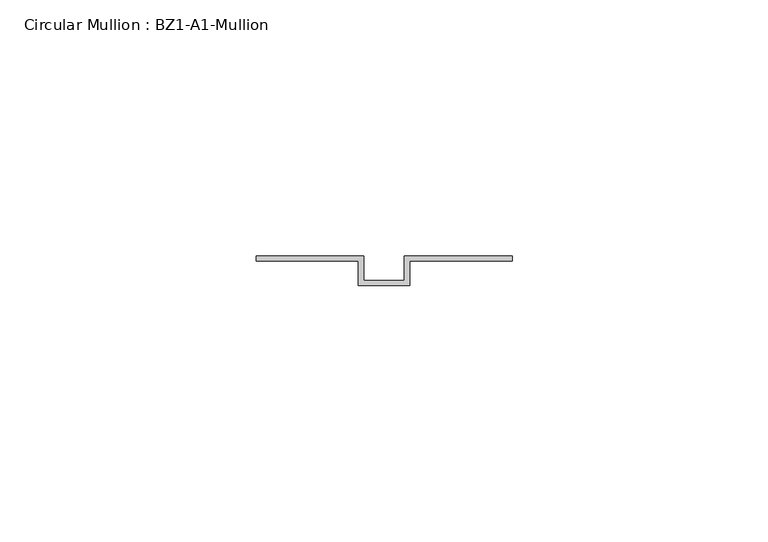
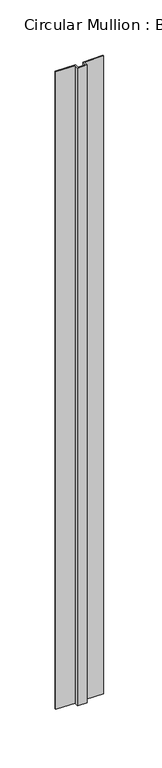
"""IFC4 building model written with IfcOpenShell, lengths in millimetres: member geometry, Circular Mullion : BZ1-A1-Mullion."""

import ifcopenshell
import ifcopenshell.guid

model = None  # the IFC model being written
_history = None  # IfcOwnerHistory: only IFC2X3 demands one
_inside = {}  # id of a spatial element -> (the spatial element, [elements in it])
_under = {}  # id of a project, library or spatial element -> (it, [spatial elements below it])
_declared = {}  # id of a project -> (the project, [libraries it declares])
_typed = {}  # id of a type object -> (the type object, [elements of that type])
_made_of = {}  # id of a material, layer set ... -> (it, [elements and type objects made of it])


def new_model(schema):
    """Start an empty IFC model of exactly this schema.

    Asked for "IFC4X3", IfcOpenShell would pick the latest addendum, in which some entities
    have other attributes; the version numbers below select the first issue.
    IFC2X3 requires an IfcOwnerHistory on every rooted entity: one is made here for all.
    """
    global model, _history
    if schema == "IFC4X3":
        model = ifcopenshell.file(schema_version=(4, 3, 0, 0))
    else:
        model = ifcopenshell.file(schema=schema)
    _inside.clear()
    _under.clear()
    _declared.clear()
    _typed.clear()
    _made_of.clear()
    _history = None
    if model.schema == "IFC2X3":
        org = make("IfcOrganization", Name="unknown")
        user = make(
            "IfcPersonAndOrganization",
            ThePerson=make("IfcPerson", FamilyName="unknown"),
            TheOrganization=org,
        )
        app = make(
            "IfcApplication",
            ApplicationDeveloper=org,
            Version="unknown",
            ApplicationFullName="unknown",
            ApplicationIdentifier="unknown",
        )
        _history = make(
            "IfcOwnerHistory",
            OwningUser=user,
            OwningApplication=app,
            ChangeAction="ADDED",
            CreationDate=0,
        )
    return model


def make(cls, **values):
    """One entity of the class cls with the attributes given. An attribute that is None is left unset."""
    return model.create_entity(
        cls, **{name: value for name, value in values.items() if value is not None}
    )


def rooted(cls, **values):
    """An entity with a GlobalId (a new one), such as an element, a storey or a relation."""
    return make(cls, GlobalId=ifcopenshell.guid.new(), OwnerHistory=_history, **values)


def si_unit(unit_type, name, prefix=None):
    """IfcSIUnit, for example si_unit("LENGTHUNIT", "METRE", prefix="MILLI")."""
    return make("IfcSIUnit", UnitType=unit_type, Prefix=prefix, Name=name)


def assignment(units):
    """IfcUnitAssignment: the units of a project."""
    return None if units is None else make("IfcUnitAssignment", Units=units)


def point(xyz):
    """IfcCartesianPoint."""
    return None if xyz is None else make("IfcCartesianPoint", Coordinates=xyz)


def direction(xyz):
    """IfcDirection."""
    return None if xyz is None else make("IfcDirection", DirectionRatios=xyz)


def frame(location, z_axis=None, x_axis=None):
    """IfcAxis2Placement3D, a coordinate frame: its origin and axes. An axis left out is left unset."""
    return make(
        "IfcAxis2Placement3D",
        Location=point(location),
        Axis=direction(z_axis),
        RefDirection=direction(x_axis),
    )


def origin():
    """The frame at (0, 0, 0) with its axes left unset."""
    return frame((0.0, 0.0, 0.0))


def place(relative_to, where):
    """IfcLocalPlacement: puts the frame where relative to a parent placement (None: the world)."""
    return make(
        "IfcLocalPlacement", PlacementRelTo=relative_to, RelativePlacement=where
    )


def context(
    kind, dimensions, precision=None, world=None, true_north=None, identifier=None
):
    """IfcGeometricRepresentationContext, for example the 3D "Model" context."""
    return make(
        "IfcGeometricRepresentationContext",
        ContextIdentifier=identifier,
        ContextType=kind,
        CoordinateSpaceDimension=dimensions,
        Precision=precision,
        WorldCoordinateSystem=world,
        TrueNorth=true_north,
    )


def project(units=None, contexts=None):
    """IfcProject with its units and contexts."""
    return rooted(
        "IfcProject",
        Name="project",
        RepresentationContexts=contexts,
        UnitsInContext=assignment(units),
    )


def spatial(cls, under=None, at=None, **own):
    """A site, building, storey or space (cls), placed at a placement, below another one or the project."""
    s = rooted(cls, ObjectPlacement=at, **own)
    if under is not None:
        _under.setdefault(under.id(), (under, []))[1].append(s)
    return s


def polyline(points):
    """IfcPolyline through the points."""
    return make("IfcPolyline", Points=[point(p) for p in points])


def outline(outer, holes=None, kind="AREA"):
    """IfcArbitraryClosedProfileDef: a profile drawn as a closed curve; with holes, ...WithVoids."""
    if holes is None:
        return make("IfcArbitraryClosedProfileDef", ProfileType=kind, OuterCurve=outer)
    return make(
        "IfcArbitraryProfileDefWithVoids",
        ProfileType=kind,
        OuterCurve=outer,
        InnerCurves=holes,
    )


def extrude(swept, where, along, depth):
    """IfcExtrudedAreaSolid: the profile swept, set in the frame where, extruded along a direction by depth."""
    return make(
        "IfcExtrudedAreaSolid",
        SweptArea=swept,
        Position=where,
        ExtrudedDirection=direction(along),
        Depth=depth,
    )


def shape(context_of_items, identifier, shape_type, items):
    """IfcShapeRepresentation: the items that make up one representation, for example the "Body"."""
    return make(
        "IfcShapeRepresentation",
        ContextOfItems=context_of_items,
        RepresentationIdentifier=identifier,
        RepresentationType=shape_type,
        Items=items,
    )


def source(mapping_origin, context_of_items, identifier, shape_type, items):
    """IfcRepresentationMap: a shape defined once, which mapped items show again and again."""
    return make(
        "IfcRepresentationMap",
        MappingOrigin=mapping_origin,
        MappedRepresentation=shape(context_of_items, identifier, shape_type, items),
    )


def transform(
    local_origin,
    x_axis=None,
    y_axis=None,
    z_axis=None,
    scale=None,
    scale2=None,
    scale3=None,
    uniform=True,
):
    """IfcCartesianTransformationOperator3D, or its non-uniform kind. x_axis, y_axis, z_axis: its Axis1, 2, 3."""
    if uniform:
        return make(
            "IfcCartesianTransformationOperator3D",
            Axis1=direction(x_axis),
            Axis2=direction(y_axis),
            LocalOrigin=point(local_origin),
            Scale=scale,
            Axis3=direction(z_axis),
        )
    return make(
        "IfcCartesianTransformationOperator3DnonUniform",
        Axis1=direction(x_axis),
        Axis2=direction(y_axis),
        LocalOrigin=point(local_origin),
        Scale=scale,
        Axis3=direction(z_axis),
        Scale2=scale2,
        Scale3=scale3,
    )


def mapped(mapping_source, mapping_target):
    """IfcMappedItem: shows the shape of a source again, moved by a transform."""
    return make(
        "IfcMappedItem", MappingSource=mapping_source, MappingTarget=mapping_target
    )


def made_of(thing, what):
    """Note that an element or type object is made of a material, layer set ...; save() writes the relation."""
    if what is not None:
        _made_of.setdefault(what.id(), (what, []))[1].append(thing)
    return thing


def element(
    cls,
    number,
    at=None,
    inside=None,
    cuts=None,
    type_object=None,
    material=None,
    context=None,
    identifier="Body",
    shape_type=None,
    held_by="IfcProductDefinitionShape",
    body=None,
    shapes=None,
    **own,
):
    """One element of the class cls, such as IfcWall. Its Tag is "e" and its number.

    at: its placement. inside: the storey or other place that contains it. cuts: it is an
    opening in that element (IfcRelVoidsElement). A single representation is given by context,
    identifier, shape_type and body (its items); several are given by shapes. held_by: the class
    of the entity that holds the representations. save() writes the other relations.
    """
    e = rooted(cls, Tag="e%d" % number, ObjectPlacement=at, **own)
    if body is not None:
        shapes = [shape(context, identifier, shape_type, body)]
    if shapes is not None:
        e.Representation = make(held_by, Representations=shapes)
    if inside is not None:
        _inside.setdefault(inside.id(), (inside, []))[1].append(e)
    if cuts is not None:
        rooted(
            "IfcRelVoidsElement", RelatingBuildingElement=cuts, RelatedOpeningElement=e
        )
    if type_object is not None:
        _typed.setdefault(type_object.id(), (type_object, []))[1].append(e)
    return made_of(e, material)


def aggregate(whole, parts):
    """IfcRelAggregates: a whole, such as a stair, and the parts it consists of."""
    return rooted("IfcRelAggregates", RelatingObject=whole, RelatedObjects=parts)


def save(model, path):
    """Write the relations noted so far, then the file.

    IfcRelAggregates (storeys below a building ...), IfcRelContainedInSpatialStructure (elements
    in a storey), IfcRelDefinesByType, IfcRelAssociatesMaterial and IfcRelDeclares: one each for
    every whole, place, type object, material and project.
    """
    for whole, parts in _under.values():
        aggregate(whole, parts)
    for where, things in _inside.values():
        rooted(
            "IfcRelContainedInSpatialStructure",
            RelatedElements=things,
            RelatingStructure=where,
        )
    for kind, things in _typed.values():
        rooted("IfcRelDefinesByType", RelatedObjects=things, RelatingType=kind)
    for what, things in _made_of.values():
        rooted("IfcRelAssociatesMaterial", RelatedObjects=things, RelatingMaterial=what)
    for by, libraries in _declared.values():
        rooted("IfcRelDeclares", RelatingContext=by, RelatedDefinitions=libraries)
    model.write(path)


def circular_mullion_bz1_a1_mullion_d0ad5048(model_context):
    return source(origin(), model_context, "Body", "SweptSolid", [
        extrude(outline(polyline([(-25.0, 11.0), (-4.0, 11.0), (-4.0, 6.2), (4.0, 6.2), (4.0, 11.0), (25.0, 11.0), (25.0, 10.0), (5.0, 10.0), (5.0, 5.2), (-5.0, 5.2), (-5.0, 10.0), (-25.0, 10.0), (-25.0, 11.0)])), frame((0.0, 0.0, -702.6851851), z_axis=(0.0, 0.0, 1.0), x_axis=(1.0, 0.0, 0.0)), (0.0, 0.0, 1.0), 702.6851851),
    ])


if __name__ == "__main__":
    model = new_model("IFC4")
    model_context = context("Model", 3, world=origin())
    ifc_project = project(units=[si_unit("LENGTHUNIT", "METRE", prefix="MILLI")], contexts=[model_context])
    site = spatial("IfcSite", under=ifc_project)
    building = spatial("IfcBuilding", under=site)
    placement = place(None, origin())
    circular_mullion_bz1_a1_mullion_shape = circular_mullion_bz1_a1_mullion_d0ad5048(model_context)
    element("IfcMember", 1, ObjectType="Circular Mullion : BZ1-A1-Mullion", at=placement, inside=building, context=model_context, shape_type="MappedRepresentation", body=[
        mapped(circular_mullion_bz1_a1_mullion_shape, transform((0.0, 0.0, 0.0), x_axis=(1.0, 0.0, 0.0), y_axis=(0.0, 1.0, 0.0), z_axis=(0.0, 0.0, 1.0))),
    ])
    save(model, "model.ifc")
